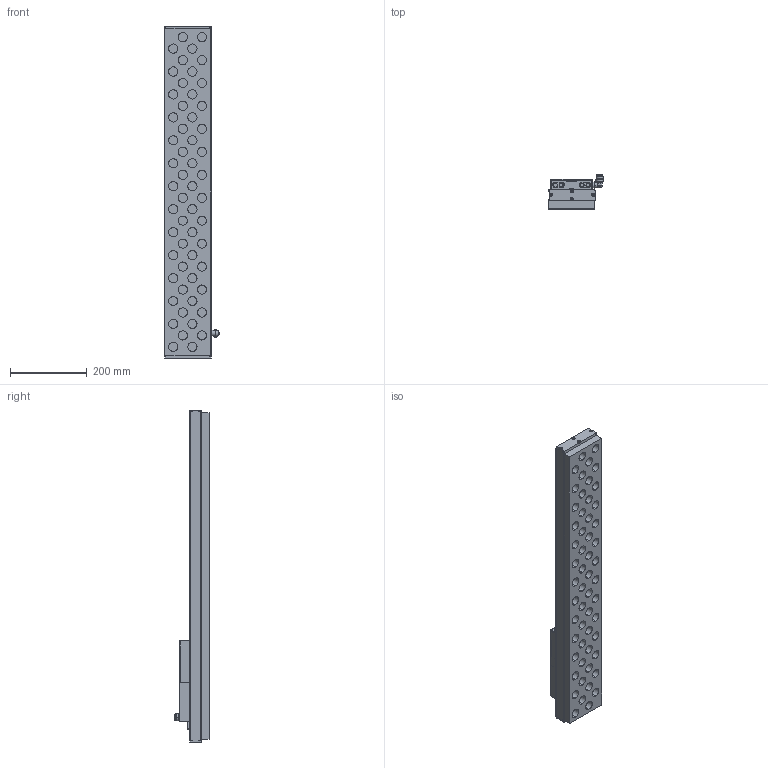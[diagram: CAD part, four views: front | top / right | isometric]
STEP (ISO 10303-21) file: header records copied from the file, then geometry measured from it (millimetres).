
FILE_DESCRIPTION (( 'STEP AP214' ), '1' );
FILE_NAME ('310 800 013.STEP', '2018-01-10T09:21:35', ( '' ), ( '' ), 'SwSTEP 2.0', 'SolidWorks 2017', '' );
FILE_SCHEMA (( 'AUTOMOTIVE_DESIGN' ));
Length unit declared in the file: millimetre
Products named in the file (1): 310 800 013
Bounding box: 142.75 x 89 x 868 mm (x, y, z)
Volume: 5269520.1 mm3; surface area: 421978.3 mm2
Topology: 1 solids, 2 shells, 612 faces, 1387 edges, 876 vertices
Faces by surface type: cylinder 286, plane 242, torus 39, cone 36, bspline 6, sphere 3
Entity records: 24390 total; most frequent: CARTESIAN_POINT 3486, DIRECTION 3225, ORIENTED_EDGE 2764, EDGE_CURVE 1382, AXIS2_PLACEMENT_3D 1304, VERTEX_POINT 873, EDGE_LOOP 711, CIRCLE 697
